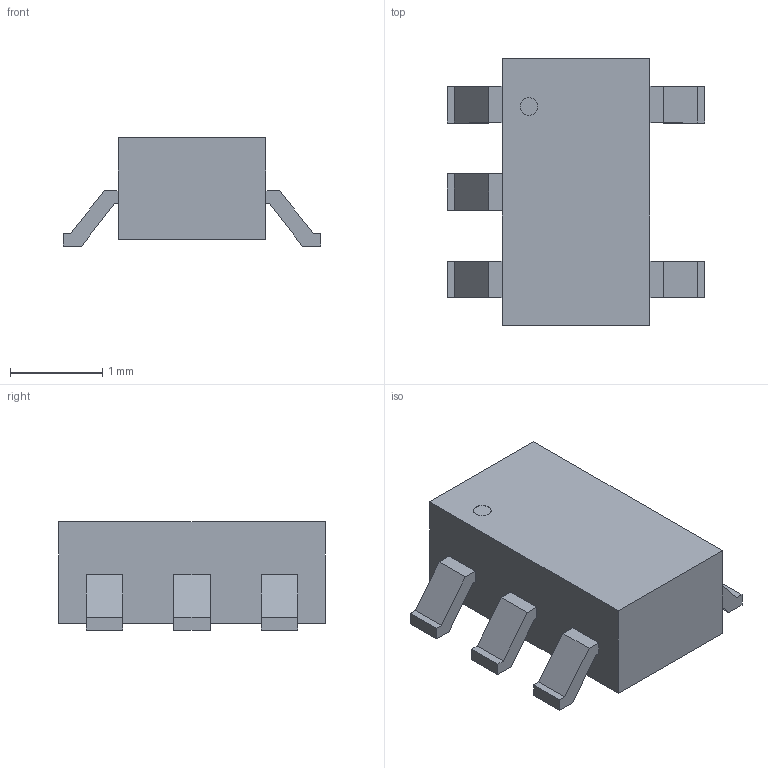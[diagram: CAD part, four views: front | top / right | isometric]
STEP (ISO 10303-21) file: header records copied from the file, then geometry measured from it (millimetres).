
FILE_DESCRIPTION(('Open CASCADE Model'),'2;1');
FILE_NAME('Open CASCADE Shape Model','2026-10-04T11:29:43',('Author'),( 'Open CASCADE'),'Open CASCADE STEP processor 7.9','Open CASCADE 7.9' ,'Unknown');
FILE_SCHEMA(('AUTOMOTIVE_DESIGN { 1 0 10303 214 1 1 1 1 }'));
Length unit declared in the file: millimetre
Products named in the file (4): TI_DBV0005A_Nominal; package_body; terminals; illustrative_pin1_index
Assembly tree (3 placements, depth 2):
  TI_DBV0005A_Nominal
    package_body
    terminals
    illustrative_pin1_index
Bounding box: 2.8 x 2.9 x 1.18 mm (x, y, z)
Volume: 5.4 mm3; surface area: 24.8 mm2
Topology: 7 solids, 7 shells, 86 faces, 198 edges, 132 vertices
Faces by surface type: plane 84, cylinder 2
Full cylindrical faces by diameter (mm): 0.192 x2
Entity records: 5027 total; most frequent: CARTESIAN_POINT 856, DIRECTION 738, LINE 546, VECTOR 546, ORIENTED_EDGE 396, PCURVE 396, DEFINITIONAL_REPRESENTATION 396, EDGE_CURVE 198
